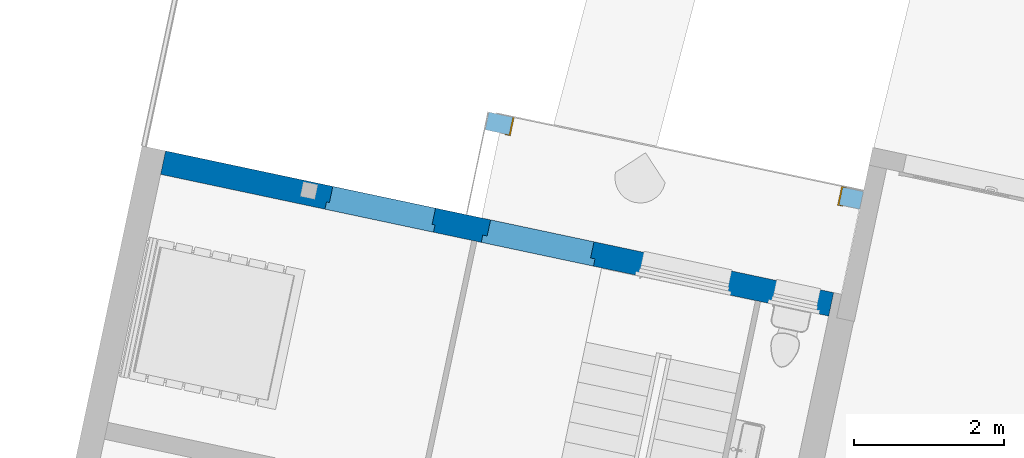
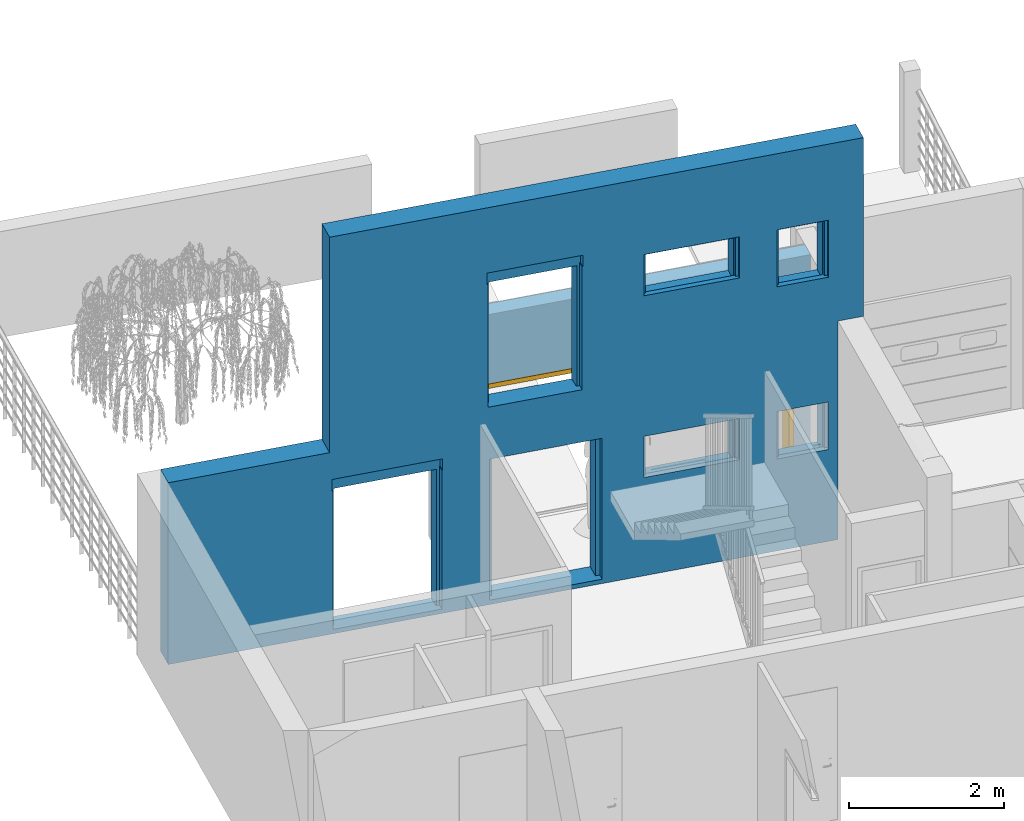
# One storey, part 13 of 20: 1 door, 1 wall, 2 openings, plus 1 element that does not belong to this part.
"""IFC2X3 building model written with IfcOpenShell, lengths in metres."""

from ifc_helpers import new_model, entity, si_unit, converted_unit, derived_unit, direction, frame, frame_2d, origin, place, context, subcontext, project, spatial, rectangle, extrude, faceted_brep, source, transform, mapped, material, material_list, layer, layer_set, layer_usage, type_object, type_shapes, element, fill, save


model = new_model("IFC2X3")

# Units and contexts
model_context = context("Model", 3, precision=1e-05, world=origin(), true_north=direction((6.12303176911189e-17, 1.0)))
body_context = subcontext(model_context, "Body", "Model", "MODEL_VIEW")
ifc_project = project(units=[si_unit("LENGTHUNIT", "METRE"), si_unit("AREAUNIT", "SQUARE_METRE"), si_unit("VOLUMEUNIT", "CUBIC_METRE"), converted_unit("PLANEANGLEUNIT", "DEGREE", entity("IfcRatioMeasure", 0.0174532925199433), si_unit("PLANEANGLEUNIT", "RADIAN"), dimensions=[0, 0, 0, 0, 0, 0, 0]), si_unit("MASSUNIT", "GRAM", prefix="KILO"), derived_unit("MASSDENSITYUNIT", [(si_unit("MASSUNIT", "GRAM", prefix="KILO"), 1), (si_unit("LENGTHUNIT", "METRE"), -3)]), si_unit("TIMEUNIT", "SECOND"), si_unit("FREQUENCYUNIT", "HERTZ"), si_unit("THERMODYNAMICTEMPERATUREUNIT", "DEGREE_CELSIUS"), derived_unit("THERMALTRANSMITTANCEUNIT", [(si_unit("MASSUNIT", "GRAM", prefix="KILO"), 1), (si_unit("THERMODYNAMICTEMPERATUREUNIT", "KELVIN"), -1), (si_unit("TIMEUNIT", "SECOND"), -3)]), derived_unit("VOLUMETRICFLOWRATEUNIT", [(si_unit("LENGTHUNIT", "METRE"), 3), (si_unit("TIMEUNIT", "SECOND"), -1)]), si_unit("ELECTRICCURRENTUNIT", "AMPERE"), si_unit("ELECTRICVOLTAGEUNIT", "VOLT"), si_unit("POWERUNIT", "WATT"), si_unit("FORCEUNIT", "NEWTON", prefix="KILO"), si_unit("ILLUMINANCEUNIT", "LUX"), si_unit("LUMINOUSFLUXUNIT", "LUMEN"), si_unit("LUMINOUSINTENSITYUNIT", "CANDELA"), derived_unit("USERDEFINED", [(si_unit("MASSUNIT", "GRAM", prefix="KILO"), -1), (si_unit("LENGTHUNIT", "METRE"), -2), (si_unit("TIMEUNIT", "SECOND"), 3), (si_unit("LUMINOUSFLUXUNIT", "LUMEN"), 1)]), derived_unit("LINEARVELOCITYUNIT", [(si_unit("LENGTHUNIT", "METRE"), 1), (si_unit("TIMEUNIT", "SECOND"), -1)]), si_unit("PRESSUREUNIT", "PASCAL"), derived_unit("USERDEFINED", [(si_unit("LENGTHUNIT", "METRE"), -2), (si_unit("MASSUNIT", "GRAM", prefix="KILO"), 1), (si_unit("TIMEUNIT", "SECOND"), -2)])], contexts=[model_context])

# Site, building, storey
site_placement = place(None, origin())
site = spatial("IfcSite", under=ifc_project, at=site_placement, Name="Default", CompositionType="ELEMENT")
building_placement = place(site_placement, origin())
building = spatial("IfcBuilding", under=site, at=building_placement, CompositionType="ELEMENT")
storey_placement = place(building_placement, frame((0.0, 0.0, -0.0686871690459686)))
storey = spatial("IfcBuildingStorey", under=building, at=storey_placement, Name="RDC", CompositionType="ELEMENT", Elevation=-0.0686871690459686)

# Wall, openings, door
ifc_material_1 = material(Name="Enduit blanc cassé2")
ifc_layer_1 = layer(ifc_material_1, 0.02)
ifc_material_2 = material(Name="Parpaing")
ifc_layer_2 = layer(ifc_material_2, 0.2)
ifc_layer_3 = layer(ifc_material_1, 0.02)
ifc_layer_set_1 = layer_set([ifc_layer_1, ifc_layer_2, ifc_layer_3], Name="Mur de base:Ext. Parpaing 2 + 20 + 2")
ifc_layer_usage = layer_usage(ifc_layer_set_1, "AXIS2", "NEGATIVE", 0.12)
wall_type_1 = type_object("IfcWallType", Name="Mur de base:Ext. Parpaing 2 + 20 + 2", PredefinedType="STANDARD", material=ifc_layer_set_1)
wall_1_placement = place(storey_placement, frame((-10.2276982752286, 86.5576366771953, 0.0), z_axis=(0.0, 0.0, 1.0), x_axis=(-0.978238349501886, 0.20748429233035, 0.0)))
wall_1 = element("IfcWallStandardCase", 1, at=wall_1_placement, inside=storey, type_object=wall_type_1, material=ifc_layer_usage, Name="Mur de base:Ext. Parpaing 2 + 20 + 2", ObjectType="Mur de base:Ext. Parpaing 2 + 20 + 2", context=body_context, shape_type="SweptSolid", body=[
    extrude(rectangle(XDim=5.10499966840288, YDim=0.240000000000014, at=frame_2d((2.55249983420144, -8.46545056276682e-16), x_axis=(-1.0, 0.0))), origin(), (0.0, 0.0, 1.0), 3.48868716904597),
])
opening_1_placement = place(wall_1_placement, origin())
element("IfcOpeningElement", 2, at=opening_1_placement, cuts=wall_1, Name="Mur de base:Ext. Parpaing 2 + 20 + 2", ObjectType="Opening", context=body_context, shape_type="SweptSolid", body=[
    extrude(rectangle(XDim=2.34999999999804, YDim=0.240000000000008, at=frame_2d((0.0, 0.0), x_axis=(0.0, 1.0))), frame((4.98499966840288, 0.160239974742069, 1.24368716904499), z_axis=(0.0, 1.0, 0.0), x_axis=(-1.0, 0.0, 0.0)), (0.0, 0.0, 1.0), 0.999999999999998),
])
opening_2_placement = place(wall_1_placement, frame((4.77999999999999, 0.120000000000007, 0.0)))
opening_2 = element("IfcOpeningElement", 3, at=opening_2_placement, cuts=wall_1, Name="Ouverture en rectangle:Ouverture en rectangle 4.50 M 3:1", ObjectType="Opening", context=body_context, shape_type="SweptSolid", body=[
    extrude(rectangle(XDim=2.34999999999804, YDim=4.5, at=frame_2d((1.17499999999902, 2.25), x_axis=(1.0, 0.0))), frame((0.0, 0.0, 0.0), z_axis=(0.0, -1.0, 0.0), x_axis=(0.0, 0.0, 1.0)), (0.0, 0.0, 1.0), 0.24),
])
ifc_material_3 = material(Name="RAL 212")
door_style = type_object("IfcDoorStyle", Name="Ouverture en rectangle 4.50 M 3", ConstructionType="NOTDEFINED", OperationType="NOTDEFINED", ParameterTakesPrecedence=False, Sizeable=False, material=ifc_material_3)
shared_shape = source(origin(), body_context, "Body", "Brep", [
    faceted_brep([(0.0, 0.0, 0.0), (0.0, 0.24000000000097, 0.0), (-0.0499999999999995, 0.24000000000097, 0.0), (-0.0499999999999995, 0.25000000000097, 0.0), (0.0200000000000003, 0.25000000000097, 0.0), (0.0200000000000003, -0.00999999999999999, 0.0), (-0.0499999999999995, -0.00999999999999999, 0.0), (-0.0499999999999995, 0.0, 0.0), (0.0, 0.0, 2.34999999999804), (0.0, 0.24000000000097, 2.34999999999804), (4.5, 0.24000000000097, 2.34999999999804), (4.5, 0.24000000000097, 0.0), (4.55, 0.24000000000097, 0.0), (4.55, 0.24000000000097, 2.39999999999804), (-0.0499999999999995, 0.24000000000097, 2.39999999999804), (-0.0499999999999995, 0.25000000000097, 2.39999999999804), (4.55, 0.25000000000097, 2.39999999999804), (4.55, 0.25000000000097, 0.0), (4.48, 0.25000000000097, 0.0), (4.48, 0.25000000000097, 2.32999999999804), (0.0200000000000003, 0.25000000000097, 2.32999999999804), (0.0200000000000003, -0.00999999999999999, 2.32999999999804), (4.48, -0.00999999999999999, 2.32999999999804), (4.48, -0.00999999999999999, 0.0), (4.55, -0.00999999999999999, 0.0), (4.55, -0.00999999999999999, 2.39999999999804), (-0.0499999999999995, -0.00999999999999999, 2.39999999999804), (-0.0499999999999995, 0.0, 2.39999999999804), (4.55, 0.0, 2.39999999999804), (4.55, 0.0, 0.0), (4.5, 0.0, 0.0), (4.5, 0.0, 2.34999999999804)], [[[0, 1, 2, 3, 4, 5, 6, 7]], [[1, 0, 8, 9]], [[2, 1, 9, 10, 11, 12, 13, 14]], [[3, 2, 14, 15]], [[4, 3, 15, 16, 17, 18, 19, 20]], [[5, 4, 20, 21]], [[6, 5, 21, 22, 23, 24, 25, 26]], [[7, 6, 26, 27]], [[0, 7, 27, 28, 29, 30, 31, 8]], [[10, 31, 30, 11]], [[30, 29, 24, 23, 18, 17, 12, 11]], [[16, 13, 12, 17]], [[22, 19, 18, 23]], [[28, 25, 24, 29]], [[9, 8, 31, 10]], [[15, 14, 13, 16]], [[21, 20, 19, 22]], [[27, 26, 25, 28]]]),
])
type_shapes(door_style, [shared_shape])
door_placement = place(opening_2_placement, frame((0.0, 0.0, 0.0), z_axis=(0.0, 0.0, 1.0), x_axis=(-1.0, 0.0, 0.0)))
door = element("IfcDoor", 4, at=door_placement, inside=storey, type_object=door_style, material=ifc_material_3, Name="Ouverture en rectangle:Ouverture en rectangle 4.50 M 3", ObjectType="Ouverture en rectangle:Ouverture en rectangle 4.50 M 3", OverallHeight=2.34999999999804, OverallWidth=4.5, context=body_context, shape_type="MappedRepresentation", body=[
    mapped(shared_shape, transform((0.0, 0.0, 0.0), scale=1.0)),
])
fill(opening_2, door)

# Wall
ifc_material_4 = material(Name="Isolant")
ifc_material_list = material_list([ifc_material_1, ifc_material_2, ifc_material_4])
ifc_layer_4 = layer(ifc_material_1, 0.02)
ifc_layer_5 = layer(ifc_material_2, 0.2)
ifc_layer_6 = layer(ifc_material_4, 0.1)
ifc_layer_set_2 = layer_set([ifc_layer_4, ifc_layer_5, ifc_layer_6], Name="Mur de base:Ext. Parpaing 20 + Isolant 10 enduit blanc CASSE")
wall_type_2 = type_object("IfcWallType", Name="Mur de base:Ext. Parpaing 20 + Isolant 10 enduit blanc CASSE", PredefinedType="STANDARD", material=ifc_layer_set_2)
wall_2_placement = place(storey_placement, frame((-10.2948794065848, 85.0998519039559, 0.0), z_axis=(0.0, 0.0, 1.0), x_axis=(-0.978238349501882, 0.207484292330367, 0.0)))
element("IfcWall", 5, at=wall_2_placement, inside=storey, type_object=wall_type_2, material=ifc_material_list, Name="Mur de base:Ext. Parpaing 20 + Isolant 10 enduit blanc CASSE", ObjectType="Mur de base:Ext. Parpaing 20 + Isolant 10 enduit blanc CASSE", context=body_context, shape_type="Brep", body=[
    faceted_brep([(0.345228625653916, -0.159999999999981, 0.0), (5.34398941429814, -0.159999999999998, 0.0), (5.35398943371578, -0.159999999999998, 0.0), (9.45196033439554, -0.159999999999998, 0.0), (9.45196033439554, -0.159999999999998, 2.86868716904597), (7.25794525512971, -0.160000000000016, 2.86868716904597), (7.25794525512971, -0.160000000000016, 3.46868716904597), (7.25794525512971, -0.160000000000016, 6.26868716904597), (0.000307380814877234, -0.160000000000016, 6.26868716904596), (0.000307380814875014, -0.160000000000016, 3.44868716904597), (0.00522862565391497, -0.159999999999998, 3.44868716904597), (0.345228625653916, -0.159999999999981, 3.44868716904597), (5.77196033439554, -0.159999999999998, 2.21868716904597), (7.17196033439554, -0.159999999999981, 2.21868716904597), (7.17196033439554, -0.159999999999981, 0.037432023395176), (5.77196033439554, -0.159999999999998, 0.0374320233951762), (5.02174799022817, -0.160000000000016, 0.0686871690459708), (3.61174799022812, -0.159999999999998, 0.0686871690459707), (3.61174799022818, -0.159999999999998, 2.23368716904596), (5.02174799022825, -0.160000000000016, 2.23368716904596), (1.12549994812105, -0.159999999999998, 2.15), (1.12549994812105, -0.159999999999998, 1.37), (0.525499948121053, -0.159999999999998, 1.37), (0.525499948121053, -0.159999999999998, 2.15), (2.93425161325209, -0.160000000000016, 2.15), (2.93425161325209, -0.160000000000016, 1.47), (1.73425161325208, -0.159999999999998, 1.47), (1.73425161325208, -0.159999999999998, 2.15), (3.86508132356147, -0.160000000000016, 5.01868716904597), (5.06508132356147, -0.160000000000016, 5.01868716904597), (5.06508132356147, -0.160000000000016, 3.08743202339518), (3.86508132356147, -0.160000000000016, 3.08743202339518), (2.93425161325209, -0.160000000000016, 5.01868716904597), (2.93425161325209, -0.160000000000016, 4.33868716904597), (1.73425161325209, -0.159999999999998, 4.33868716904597), (1.73425161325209, -0.159999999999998, 5.01868716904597), (1.12549994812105, -0.159999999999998, 5.01868716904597), (1.12549994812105, -0.159999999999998, 4.08868716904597), (0.525499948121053, -0.159999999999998, 4.08868716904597), (0.525499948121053, -0.159999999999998, 5.01868716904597), (9.45196033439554, 0.160000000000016, 0.0), (5.21062511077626, 0.159999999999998, 0.0), (5.14062511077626, 0.160000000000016, 0.0), (1.34393642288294, 0.159999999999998, 0.0), (1.27393628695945, 0.159999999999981, 0.0), (0.345228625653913, 0.159999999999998, 0.0), (0.345228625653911, 0.159999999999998, 3.44868716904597), (0.0, 0.159999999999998, 3.44868716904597), (0.0, 0.159999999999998, 6.26868716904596), (0.320000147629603, 0.159999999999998, 6.26868716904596), (7.25763787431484, 0.159999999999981, 6.26868716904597), (7.25763787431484, 0.159999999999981, 2.86868716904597), (9.45196033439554, 0.160000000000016, 2.86868716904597), (7.21196033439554, 0.159999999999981, 0.0686871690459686), (7.21196033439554, 0.159999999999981, 2.25868716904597), (7.22196033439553, 0.159999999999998, 2.25868716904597), (7.22196033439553, 0.159999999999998, 2.43868716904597), (5.72196033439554, 0.160000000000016, 2.43868716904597), (5.72196033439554, 0.160000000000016, 2.25868716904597), (5.73196033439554, 0.159999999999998, 2.25868716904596), (5.73196033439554, 0.159999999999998, 0.0686871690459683), (3.55174799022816, 0.159999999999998, 0.0686871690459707), (5.08174799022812, 0.159999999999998, 0.0686871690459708), (5.08174799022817, 0.159999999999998, 2.29368716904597), (3.55174799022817, 0.159999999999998, 2.29368716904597), (0.475499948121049, 0.159999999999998, 1.45), (1.17549994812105, 0.159999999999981, 1.45), (1.17549994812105, 0.159999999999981, 2.2), (0.475499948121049, 0.159999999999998, 2.2), (1.68425161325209, 0.159999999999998, 1.55), (2.98425161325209, 0.159999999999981, 1.55), (2.98425161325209, 0.159999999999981, 2.2), (1.68425161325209, 0.159999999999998, 2.2), (3.82508132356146, 0.159999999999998, 3.11868716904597), (5.10508132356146, 0.159999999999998, 3.11868716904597), (5.10508132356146, 0.159999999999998, 5.05868716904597), (5.11508132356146, 0.159999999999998, 5.05868716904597), (5.11508132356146, 0.159999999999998, 5.23868716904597), (3.81508132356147, 0.159999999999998, 5.23868716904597), (3.81508132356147, 0.159999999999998, 5.05868716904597), (3.82508132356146, 0.159999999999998, 5.05868716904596), (1.68425161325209, 0.159999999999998, 4.41868716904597), (2.98425161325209, 0.159999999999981, 4.41868716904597), (2.98425161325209, 0.159999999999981, 5.06868716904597), (1.68425161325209, 0.159999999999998, 5.06868716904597), (0.475499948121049, 0.159999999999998, 4.16868716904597), (1.17549994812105, 0.159999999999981, 4.16868716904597), (1.17549994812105, 0.159999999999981, 5.06868716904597), (0.475499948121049, 0.159999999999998, 5.06868716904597), (5.02174799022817, 0.0599999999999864, 0.0686871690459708), (5.08174799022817, 0.0599999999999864, 0.0686871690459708), (3.55174799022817, 0.0599999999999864, 0.0686871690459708), (3.61174799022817, 0.0599999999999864, 0.0686871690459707), (5.02174799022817, 0.0599999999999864, 2.23368716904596), (3.61174799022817, 0.0599999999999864, 2.23368716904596), (3.55174799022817, 0.0599999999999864, 2.29368716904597), (5.08174799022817, 0.0599999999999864, 2.29368716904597), (5.77196033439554, 0.060000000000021, 2.21868716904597), (7.17196033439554, 0.0599999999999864, 2.21868716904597), (7.17196033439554, 0.0599999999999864, 0.0686871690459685), (7.17196033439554, 0.0620000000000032, 0.0686871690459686), (7.17196033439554, 0.0620000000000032, 0.0568545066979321), (7.21196033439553, 0.0600000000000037, 0.0686871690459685), (5.73196033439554, 0.0600000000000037, 0.0686871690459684), (5.77196033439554, 0.0600000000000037, 0.0686871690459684), (5.77196033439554, 0.0620000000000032, 0.0686871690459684), (5.77196033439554, 0.0620000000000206, 0.0568545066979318), (7.21196033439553, 0.0600000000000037, 2.25868716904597), (5.73196033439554, 0.0599999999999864, 2.25868716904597), (5.72196033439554, 0.0600000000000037, 2.25868716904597), (5.72196033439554, 0.0600000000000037, 2.43868716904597), (7.22196033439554, 0.0600000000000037, 2.43868716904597), (7.22196033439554, 0.0600000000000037, 2.25868716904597), (1.12549994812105, 0.0800000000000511, 1.45), (1.12549994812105, 0.0800000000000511, 1.37), (1.12549994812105, 0.0600000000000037, 2.15), (1.12549994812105, 0.0600000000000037, 1.45), (0.525499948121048, 0.0800000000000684, 1.37), (0.525499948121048, 0.0800000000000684, 1.45), (0.525499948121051, 0.0600000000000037, 1.45), (0.525499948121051, 0.0600000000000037, 2.15), (1.13549994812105, 0.0600000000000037, 1.45), (1.13549994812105, 0.110000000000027, 1.45), (1.17549994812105, 0.110000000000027, 1.45), (0.475499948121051, 0.11000000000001, 1.45), (0.515499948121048, 0.11000000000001, 1.45), (0.515499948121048, 0.060000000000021, 1.45), (1.17549994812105, 0.11000000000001, 2.2), (1.13549994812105, 0.11000000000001, 2.16), (0.515499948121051, 0.109999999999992, 2.16), (0.475499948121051, 0.11000000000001, 2.2), (1.13549994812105, 0.0599999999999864, 2.16), (0.515499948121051, 0.0600000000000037, 2.16), (2.93425161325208, 0.0800000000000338, 1.55), (2.93425161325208, 0.0800000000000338, 1.47), (2.93425161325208, 0.0599999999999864, 2.15), (2.93425161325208, 0.0599999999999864, 1.55), (1.73425161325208, 0.0800000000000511, 1.47), (1.73425161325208, 0.0800000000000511, 1.55), (1.73425161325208, 0.0600000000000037, 1.55), (1.73425161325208, 0.0600000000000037, 2.15), (2.94425161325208, 0.0600000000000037, 1.55), (2.94425161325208, 0.11000000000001, 1.55), (2.98425161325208, 0.11000000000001, 1.55), (1.68425161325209, 0.109999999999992, 1.55), (1.72425161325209, 0.109999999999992, 1.55), (1.72425161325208, 0.0600000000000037, 1.55), (2.98425161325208, 0.109999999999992, 2.2), (2.94425161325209, 0.109999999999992, 2.16), (1.72425161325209, 0.109999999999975, 2.16), (1.68425161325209, 0.109999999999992, 2.2), (2.94425161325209, 0.0599999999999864, 2.16), (1.72425161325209, 0.0599999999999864, 2.16), (7.25772432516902, 0.0700000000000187, 2.86868716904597), (5.06508132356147, 0.0600000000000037, 5.01868716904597), (3.86508132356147, 0.0600000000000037, 5.01868716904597), (5.06508132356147, 0.0600000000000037, 3.11868716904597), (5.06508132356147, 0.0620000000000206, 3.11868716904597), (5.06508132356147, 0.0620000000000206, 3.10685450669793), (5.10508132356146, 0.0600000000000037, 3.11868716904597), (3.82508132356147, 0.0600000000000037, 3.11868716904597), (3.86508132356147, 0.0600000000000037, 3.11868716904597), (3.86508132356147, 0.0620000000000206, 3.11868716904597), (3.86508132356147, 0.0620000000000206, 3.10685450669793), (5.10508132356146, 0.060000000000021, 5.05868716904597), (3.82508132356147, 0.0600000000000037, 5.05868716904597), (3.81508132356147, 0.0600000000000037, 5.05868716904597), (3.81508132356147, 0.0600000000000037, 5.23868716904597), (5.11508132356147, 0.0600000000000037, 5.23868716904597), (5.11508132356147, 0.0600000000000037, 5.05868716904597), (2.93425161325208, 0.0800000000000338, 4.41868716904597), (2.93425161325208, 0.0800000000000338, 4.33868716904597), (2.93425161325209, 0.0599999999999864, 5.01868716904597), (2.93425161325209, 0.0599999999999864, 4.41868716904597), (1.73425161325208, 0.0800000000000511, 4.33868716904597), (1.73425161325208, 0.0800000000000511, 4.41868716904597), (1.73425161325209, 0.0600000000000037, 4.41868716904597), (1.73425161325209, 0.0600000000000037, 5.01868716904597), (2.94425161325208, 0.0600000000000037, 4.41868716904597), (2.94425161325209, 0.11000000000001, 4.41868716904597), (2.98425161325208, 0.11000000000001, 4.41868716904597), (1.68425161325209, 0.109999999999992, 4.41868716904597), (1.72425161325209, 0.109999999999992, 4.41868716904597), (1.72425161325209, 0.0600000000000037, 4.41868716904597), (2.98425161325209, 0.109999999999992, 5.06868716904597), (2.94425161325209, 0.109999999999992, 5.02868716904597), (1.72425161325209, 0.109999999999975, 5.02868716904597), (1.68425161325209, 0.109999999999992, 5.06868716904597), (2.94425161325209, 0.0599999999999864, 5.02868716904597), (1.72425161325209, 0.0599999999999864, 5.02868716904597), (1.12549994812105, 0.0800000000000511, 4.16868716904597), (1.12549994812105, 0.0800000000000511, 4.08868716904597), (1.12549994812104, 0.0600000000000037, 5.01868716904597), (1.12549994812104, 0.0600000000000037, 4.16868716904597), (0.525499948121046, 0.0800000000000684, 4.08868716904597), (0.525499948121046, 0.0800000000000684, 4.16868716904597), (0.525499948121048, 0.0600000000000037, 4.16868716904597), (0.525499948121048, 0.0600000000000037, 5.01868716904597), (1.13549994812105, 0.0600000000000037, 4.16868716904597), (1.13549994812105, 0.110000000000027, 4.16868716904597), (1.17549994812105, 0.110000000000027, 4.16868716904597), (0.475499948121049, 0.11000000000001, 4.16868716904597), (0.515499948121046, 0.11000000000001, 4.16868716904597), (0.515499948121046, 0.060000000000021, 4.16868716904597), (1.17549994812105, 0.11000000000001, 5.06868716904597), (1.13549994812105, 0.11000000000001, 5.02868716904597), (0.515499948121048, 0.109999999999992, 5.02868716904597), (0.475499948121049, 0.11000000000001, 5.06868716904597), (1.13549994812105, 0.0599999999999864, 5.02868716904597), (0.515499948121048, 0.0600000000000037, 5.02868716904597)], [[[0, 1, 2, 3, 4, 5, 6, 7, 8, 9, 10, 11], [12, 13, 14, 15], [16, 17, 18, 19], [20, 21, 22, 23], [24, 25, 26, 27], [28, 29, 30, 31], [32, 33, 34, 35], [36, 37, 38, 39]], [[40, 41, 42, 43, 44, 45, 46, 47, 48, 49, 50, 51, 52], [53, 54, 55, 56, 57, 58, 59, 60], [61, 62, 63, 64], [65, 66, 67, 68], [69, 70, 71, 72], [73, 74, 75, 76, 77, 78, 79, 80], [81, 82, 83, 84], [85, 86, 87, 88]], [[4, 3, 40, 52]], [[89, 90, 62, 61, 91, 92, 17, 16]], [[93, 89, 16, 19]], [[94, 93, 19, 18]], [[92, 94, 18, 17]], [[90, 89, 93, 94, 92, 91, 95, 96]], [[96, 95, 64, 63]], [[90, 96, 63, 62]], [[95, 91, 61, 64]], [[13, 12, 97, 98]], [[98, 99, 100, 101, 14, 13]], [[99, 102, 53, 60, 103, 104, 105, 100]], [[104, 97, 12, 15, 106, 105]], [[102, 107, 54, 53]], [[102, 99, 98, 97, 104, 103, 108, 109, 110, 111, 112, 107]], [[108, 103, 60, 59]], [[101, 100, 105, 106]], [[14, 101, 106, 15]], [[112, 111, 56, 55]], [[110, 109, 58, 57]], [[111, 110, 57, 56]], [[112, 55, 54, 107]], [[113, 114, 21, 20, 115, 116]], [[117, 118, 119, 120, 23, 22]], [[21, 114, 117, 22]], [[114, 113, 118, 117]], [[115, 20, 23, 120]], [[113, 116, 121, 122, 123, 66, 65, 124, 125, 126, 119, 118]], [[66, 123, 127, 67]], [[123, 122, 128, 129, 125, 124, 130, 127]], [[122, 121, 131, 128]], [[116, 115, 120, 119, 126, 132, 131, 121]], [[67, 127, 130, 68]], [[129, 128, 131, 132]], [[124, 65, 68, 130]], [[126, 125, 129, 132]], [[133, 134, 25, 24, 135, 136]], [[137, 138, 139, 140, 27, 26]], [[25, 134, 137, 26]], [[134, 133, 138, 137]], [[135, 24, 27, 140]], [[133, 136, 141, 142, 143, 70, 69, 144, 145, 146, 139, 138]], [[70, 143, 147, 71]], [[143, 142, 148, 149, 145, 144, 150, 147]], [[142, 141, 151, 148]], [[136, 135, 140, 139, 146, 152, 151, 141]], [[71, 147, 150, 72]], [[149, 148, 151, 152]], [[144, 69, 72, 150]], [[146, 145, 149, 152]], [[3, 2, 1, 0, 45, 44, 43, 42, 41, 40]], [[8, 7, 50, 49, 48]], [[5, 4, 52, 51, 153]], [[7, 6, 5, 153, 51, 50]], [[154, 29, 28, 155]], [[29, 154, 156, 157, 158, 30]], [[157, 156, 159, 74, 73, 160, 161, 162]], [[155, 28, 31, 163, 162, 161]], [[74, 159, 164, 75]], [[154, 155, 161, 160, 165, 166, 167, 168, 169, 164, 159, 156]], [[160, 73, 80, 165]], [[158, 157, 162, 163]], [[30, 158, 163, 31]], [[169, 168, 77, 76]], [[167, 166, 79, 78]], [[168, 167, 78, 77]], [[75, 164, 169, 76]], [[170, 171, 33, 32, 172, 173]], [[174, 175, 176, 177, 35, 34]], [[33, 171, 174, 34]], [[171, 170, 175, 174]], [[172, 32, 35, 177]], [[170, 173, 178, 179, 180, 82, 81, 181, 182, 183, 176, 175]], [[82, 180, 184, 83]], [[180, 179, 185, 186, 182, 181, 187, 184]], [[179, 178, 188, 185]], [[173, 172, 177, 176, 183, 189, 188, 178]], [[83, 184, 187, 84]], [[186, 185, 188, 189]], [[181, 81, 84, 187]], [[183, 182, 186, 189]], [[190, 191, 37, 36, 192, 193]], [[194, 195, 196, 197, 39, 38]], [[37, 191, 194, 38]], [[191, 190, 195, 194]], [[192, 36, 39, 197]], [[190, 193, 198, 199, 200, 86, 85, 201, 202, 203, 196, 195]], [[86, 200, 204, 87]], [[200, 199, 205, 206, 202, 201, 207, 204]], [[199, 198, 208, 205]], [[193, 192, 197, 196, 203, 209, 208, 198]], [[87, 204, 207, 88]], [[206, 205, 208, 209]], [[201, 85, 88, 207]], [[203, 202, 206, 209]], [[47, 46, 11, 10, 9]], [[45, 0, 11, 46]], [[9, 8, 48, 47]], [[166, 165, 80, 79]], [[58, 109, 108, 59]]]),
])

save(model, "model.ifc")
